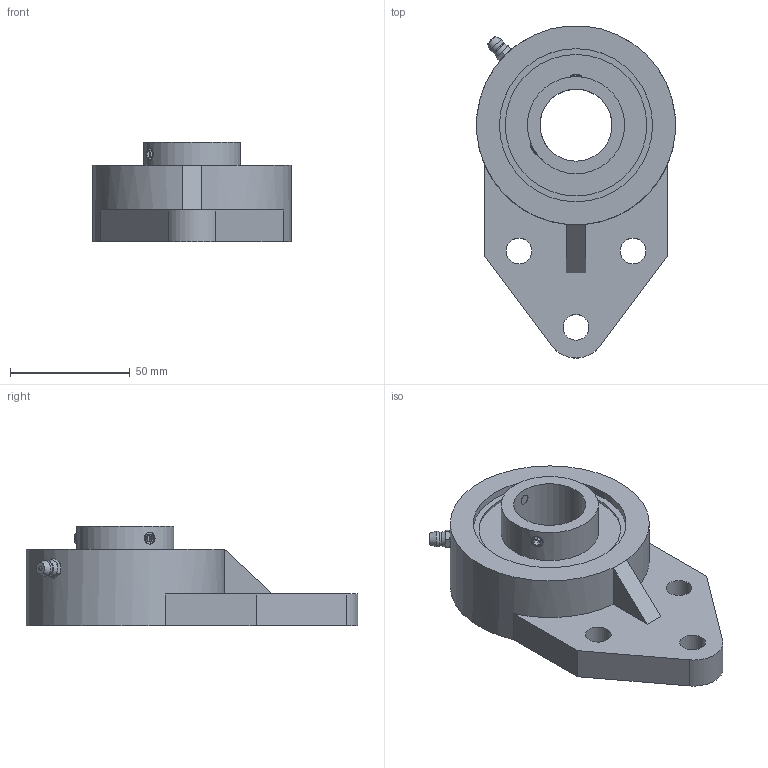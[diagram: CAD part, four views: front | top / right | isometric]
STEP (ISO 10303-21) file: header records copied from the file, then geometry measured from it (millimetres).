
FILE_DESCRIPTION(/* description */ (''),/* implementation_level */ '2;1');
FILE_NAME(/* name */ 'C:\Users\UGijyutu_200702\Desktop\77.プラスチックハウジング\MBFBL200V\MBFBL200V\MBFBL206V.stp',/* time_stamp */ '2023-05-08T16:15:06+09:00',/* author */ ('UGijyutu_200702'),/* organization */ (''),/* preprocessor_version */ 'ST-DEVELOPER v18',/* originating_system */ 'Autodesk Inventor 2020',/* authorisation */ '');
FILE_SCHEMA (('AUTOMOTIVE_DESIGN { 1 0 10303 214 3 1 1 }'));
Length unit declared in the file: millimetre
Products named in the file (4): MBFBL206V; FBL206; MB6 V; 1/4-28UNF-2A
Assembly tree (3 placements, depth 2):
  MBFBL206V
    FBL206
    MB6 V
    1/4-28UNF-2A
Bounding box: 82.81 x 138.3 x 41.6 mm (x, y, z)
Volume: 158201.5 mm3; surface area: 41836.9 mm2
Topology: 3 solids, 3 shells, 84 faces, 209 edges, 143 vertices
Faces by surface type: plane 44, cylinder 19, cone 15, sphere 4, torus 2
Full cylindrical faces by diameter (mm): 3.2 x1, 4.978 x1, 5 x2, 6.35 x1, 10.7 x3, 30 x1, 40.5 x1, 63.8 x2, 72 x1
Entity records: 2936 total; most frequent: CARTESIAN_POINT 697, DIRECTION 440, ORIENTED_EDGE 416, EDGE_CURVE 208, AXIS2_PLACEMENT_3D 179, VERTEX_POINT 143, EDGE_LOOP 109, CIRCLE 88
